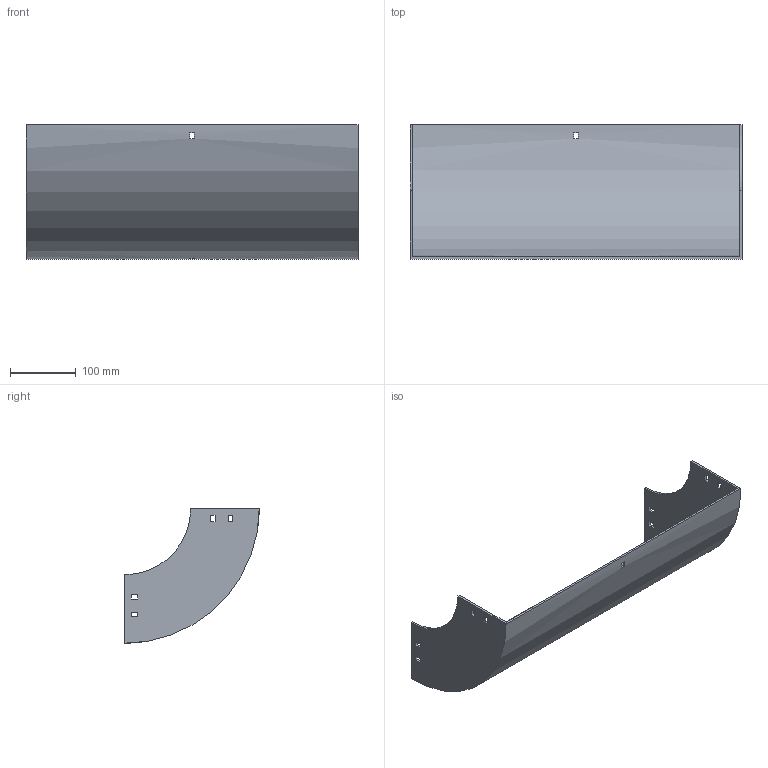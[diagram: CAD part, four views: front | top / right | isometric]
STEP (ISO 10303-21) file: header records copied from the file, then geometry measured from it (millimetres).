
FILE_DESCRIPTION (( 'STEP AP214' ), '1' );
FILE_NAME ('30B1D500.step', '2025-02-21T09:48:47', ( '' ), ( '' ), 'SwSTEP 2.0', 'SolidWorks 2023', '' );
FILE_SCHEMA (( 'AUTOMOTIVE_DESIGN' ));
Length unit declared in the file: millimetre
Products named in the file (1): 30B1D500
Bounding box: 504 x 204 x 204 mm (x, y, z)
Volume: 724075.1 mm3; surface area: 420980.7 mm2
Topology: 1 solids, 1 shells, 50 faces, 144 edges, 96 vertices
Faces by surface type: plane 46, cylinder 4
Entity records: 1687 total; most frequent: CARTESIAN_POINT 291, ORIENTED_EDGE 288, DIRECTION 262, EDGE_CURVE 144, VECTOR 128, LINE 128, VERTEX_POINT 96, EDGE_LOOP 70
